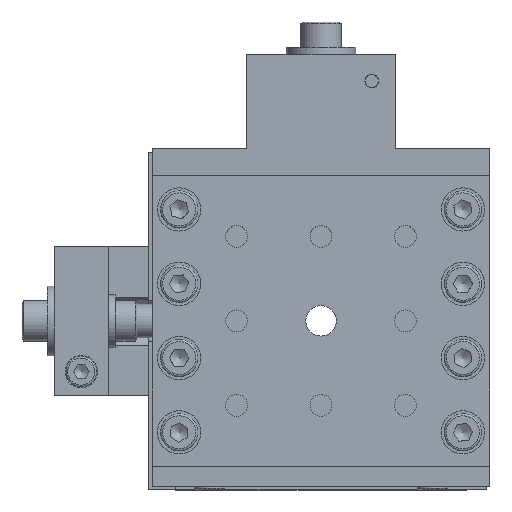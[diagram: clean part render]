
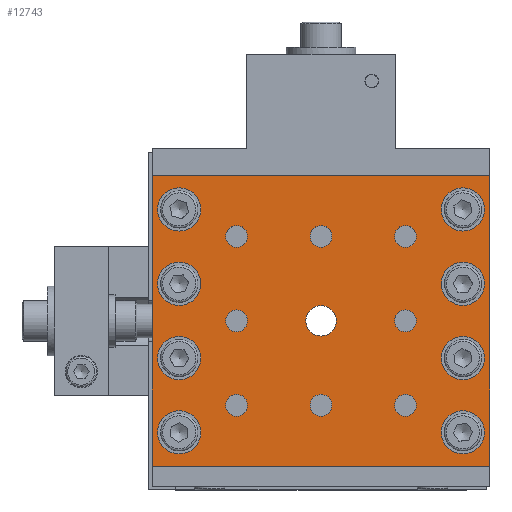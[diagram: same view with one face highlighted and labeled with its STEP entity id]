
A CAD part, top view. The second image highlights one B-rep face of the part: STEP entity #12743.
In plain terms, the highlighted planar face has unit normal (0, 0, 1).
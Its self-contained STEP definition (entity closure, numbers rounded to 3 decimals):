
#11070=CARTESIAN_POINT('',(52.298,-13.453,-4.757));
#11071=VERTEX_POINT('',#11070);
#11078=CARTESIAN_POINT('',(2.298,-13.453,-4.757));
#11079=VERTEX_POINT('',#11078);
#11080=CARTESIAN_POINT('',(52.298,-13.453,-4.757));
#11081=DIRECTION('',(-1.0,0.0,0.0));
#11082=VECTOR('',#11081,50.);
#11083=LINE('',#11080,#11082);
#11084=EDGE_CURVE('',#11071,#11079,#11083,.T.);
#11821=CARTESIAN_POINT('',(2.298,29.547,-4.757));
#11822=VERTEX_POINT('',#11821);
#11829=CARTESIAN_POINT('',(52.298,29.547,-4.757));
#11830=VERTEX_POINT('',#11829);
#11831=CARTESIAN_POINT('',(2.298,29.547,-4.757));
#11832=DIRECTION('',(1.0,0.0,0.0));
#11833=VECTOR('',#11832,50.);
#11834=LINE('',#11831,#11833);
#11835=EDGE_CURVE('',#11822,#11830,#11834,.T.);
#11899=CARTESIAN_POINT('',(29.548,8.047,-4.757));
#11900=VERTEX_POINT('',#11899);
#11901=CARTESIAN_POINT('',(27.298,8.047,-4.757));
#11902=DIRECTION('',(0.0,0.0,-1.0));
#11903=DIRECTION('',(-1.0,0.0,0.0));
#11904=AXIS2_PLACEMENT_3D('',#11901,#11902,#11903);
#11905=CIRCLE('',#11904,2.25);
#11906=EDGE_CURVE('',#11900,#11900,#11905,.T.);
#11930=CARTESIAN_POINT('',(28.919,20.547,-4.757));
#11931=VERTEX_POINT('',#11930);
#11932=CARTESIAN_POINT('',(27.298,20.547,-4.757));
#11933=DIRECTION('',(0.0,0.0,-1.0));
#11934=DIRECTION('',(1.0,0.0,0.0));
#11935=AXIS2_PLACEMENT_3D('',#11932,#11933,#11934);
#11936=CIRCLE('',#11935,1.621);
#11937=EDGE_CURVE('',#11931,#11931,#11936,.T.);
#11958=CARTESIAN_POINT('',(28.919,-4.453,-4.757));
#11959=VERTEX_POINT('',#11958);
#11960=CARTESIAN_POINT('',(27.298,-4.453,-4.757));
#11961=DIRECTION('',(0.0,0.0,-1.0));
#11962=DIRECTION('',(1.0,0.0,0.0));
#11963=AXIS2_PLACEMENT_3D('',#11960,#11961,#11962);
#11964=CIRCLE('',#11963,1.621);
#11965=EDGE_CURVE('',#11959,#11959,#11964,.T.);
#12166=CARTESIAN_POINT('',(51.498,13.547,-4.757));
#12167=VERTEX_POINT('',#12166);
#12168=CARTESIAN_POINT('',(48.298,13.547,-4.757));
#12169=DIRECTION('',(0.0,0.0,-1.0));
#12170=DIRECTION('',(1.0,0.0,0.0));
#12171=AXIS2_PLACEMENT_3D('',#12168,#12169,#12170);
#12172=CIRCLE('',#12171,3.2);
#12173=EDGE_CURVE('',#12167,#12167,#12172,.T.);
#12206=CARTESIAN_POINT('',(51.498,-8.453,-4.757));
#12207=VERTEX_POINT('',#12206);
#12208=CARTESIAN_POINT('',(48.298,-8.453,-4.757));
#12209=DIRECTION('',(0.0,0.0,-1.0));
#12210=DIRECTION('',(1.0,0.0,0.0));
#12211=AXIS2_PLACEMENT_3D('',#12208,#12209,#12210);
#12212=CIRCLE('',#12211,3.2);
#12213=EDGE_CURVE('',#12207,#12207,#12212,.T.);
#12246=CARTESIAN_POINT('',(9.498,13.547,-4.757));
#12247=VERTEX_POINT('',#12246);
#12248=CARTESIAN_POINT('',(6.298,13.547,-4.757));
#12249=DIRECTION('',(0.0,0.0,-1.0));
#12250=DIRECTION('',(1.0,0.0,0.0));
#12251=AXIS2_PLACEMENT_3D('',#12248,#12249,#12250);
#12252=CIRCLE('',#12251,3.2);
#12253=EDGE_CURVE('',#12247,#12247,#12252,.T.);
#12286=CARTESIAN_POINT('',(9.498,-8.453,-4.757));
#12287=VERTEX_POINT('',#12286);
#12288=CARTESIAN_POINT('',(6.298,-8.453,-4.757));
#12289=DIRECTION('',(0.0,0.0,-1.0));
#12290=DIRECTION('',(1.0,0.0,0.0));
#12291=AXIS2_PLACEMENT_3D('',#12288,#12289,#12290);
#12292=CIRCLE('',#12291,3.2);
#12293=EDGE_CURVE('',#12287,#12287,#12292,.T.);
#12334=CARTESIAN_POINT('',(9.498,2.547,-4.757));
#12335=VERTEX_POINT('',#12334);
#12336=CARTESIAN_POINT('',(6.298,2.547,-4.757));
#12337=DIRECTION('',(0.0,0.0,-1.0));
#12338=DIRECTION('',(1.0,0.0,0.0));
#12339=AXIS2_PLACEMENT_3D('',#12336,#12337,#12338);
#12340=CIRCLE('',#12339,3.2);
#12341=EDGE_CURVE('',#12335,#12335,#12340,.T.);
#12382=CARTESIAN_POINT('',(9.498,24.547,-4.757));
#12383=VERTEX_POINT('',#12382);
#12384=CARTESIAN_POINT('',(6.298,24.547,-4.757));
#12385=DIRECTION('',(0.0,0.0,-1.0));
#12386=DIRECTION('',(1.0,0.0,0.0));
#12387=AXIS2_PLACEMENT_3D('',#12384,#12385,#12386);
#12388=CIRCLE('',#12387,3.2);
#12389=EDGE_CURVE('',#12383,#12383,#12388,.T.);
#12430=CARTESIAN_POINT('',(51.498,2.547,-4.757));
#12431=VERTEX_POINT('',#12430);
#12432=CARTESIAN_POINT('',(48.298,2.547,-4.757));
#12433=DIRECTION('',(0.0,0.0,-1.0));
#12434=DIRECTION('',(1.0,0.0,0.0));
#12435=AXIS2_PLACEMENT_3D('',#12432,#12433,#12434);
#12436=CIRCLE('',#12435,3.2);
#12437=EDGE_CURVE('',#12431,#12431,#12436,.T.);
#12478=CARTESIAN_POINT('',(51.498,24.547,-4.757));
#12479=VERTEX_POINT('',#12478);
#12480=CARTESIAN_POINT('',(48.298,24.547,-4.757));
#12481=DIRECTION('',(0.0,0.0,-1.0));
#12482=DIRECTION('',(1.0,0.0,0.0));
#12483=AXIS2_PLACEMENT_3D('',#12480,#12481,#12482);
#12484=CIRCLE('',#12483,3.2);
#12485=EDGE_CURVE('',#12479,#12479,#12484,.T.);
#12501=CARTESIAN_POINT('',(41.419,8.047,-4.757));
#12502=VERTEX_POINT('',#12501);
#12503=CARTESIAN_POINT('',(39.798,8.047,-4.757));
#12504=DIRECTION('',(0.0,0.0,-1.0));
#12505=DIRECTION('',(1.0,0.0,0.0));
#12506=AXIS2_PLACEMENT_3D('',#12503,#12504,#12505);
#12507=CIRCLE('',#12506,1.621);
#12508=EDGE_CURVE('',#12502,#12502,#12507,.T.);
#12521=CARTESIAN_POINT('',(16.419,20.547,-4.757));
#12522=VERTEX_POINT('',#12521);
#12523=CARTESIAN_POINT('',(14.798,20.547,-4.757));
#12524=DIRECTION('',(0.0,0.0,-1.0));
#12525=DIRECTION('',(1.0,0.0,0.0));
#12526=AXIS2_PLACEMENT_3D('',#12523,#12524,#12525);
#12527=CIRCLE('',#12526,1.621);
#12528=EDGE_CURVE('',#12522,#12522,#12527,.T.);
#12541=CARTESIAN_POINT('',(16.419,-4.453,-4.757));
#12542=VERTEX_POINT('',#12541);
#12543=CARTESIAN_POINT('',(14.798,-4.453,-4.757));
#12544=DIRECTION('',(0.0,0.0,-1.0));
#12545=DIRECTION('',(1.0,0.0,0.0));
#12546=AXIS2_PLACEMENT_3D('',#12543,#12544,#12545);
#12547=CIRCLE('',#12546,1.621);
#12548=EDGE_CURVE('',#12542,#12542,#12547,.T.);
#12561=CARTESIAN_POINT('',(16.419,8.047,-4.757));
#12562=VERTEX_POINT('',#12561);
#12563=CARTESIAN_POINT('',(14.798,8.047,-4.757));
#12564=DIRECTION('',(0.0,0.0,-1.0));
#12565=DIRECTION('',(1.0,0.0,0.0));
#12566=AXIS2_PLACEMENT_3D('',#12563,#12564,#12565);
#12567=CIRCLE('',#12566,1.621);
#12568=EDGE_CURVE('',#12562,#12562,#12567,.T.);
#12581=CARTESIAN_POINT('',(41.419,-4.453,-4.757));
#12582=VERTEX_POINT('',#12581);
#12583=CARTESIAN_POINT('',(39.798,-4.453,-4.757));
#12584=DIRECTION('',(0.0,0.0,-1.0));
#12585=DIRECTION('',(1.0,0.0,0.0));
#12586=AXIS2_PLACEMENT_3D('',#12583,#12584,#12585);
#12587=CIRCLE('',#12586,1.621);
#12588=EDGE_CURVE('',#12582,#12582,#12587,.T.);
#12601=CARTESIAN_POINT('',(41.419,20.547,-4.757));
#12602=VERTEX_POINT('',#12601);
#12603=CARTESIAN_POINT('',(39.798,20.547,-4.757));
#12604=DIRECTION('',(0.0,0.0,-1.0));
#12605=DIRECTION('',(1.0,0.0,0.0));
#12606=AXIS2_PLACEMENT_3D('',#12603,#12604,#12605);
#12607=CIRCLE('',#12606,1.621);
#12608=EDGE_CURVE('',#12602,#12602,#12607,.T.);
#12618=CARTESIAN_POINT('',(2.298,-13.453,-4.757));
#12619=DIRECTION('',(0.0,1.0,0.0));
#12620=VECTOR('',#12619,43.0);
#12621=LINE('',#12618,#12620);
#12622=EDGE_CURVE('',#11079,#11822,#12621,.T.);
#12641=CARTESIAN_POINT('',(52.298,29.547,-4.757));
#12642=DIRECTION('',(0.0,-1.0,0.0));
#12643=VECTOR('',#12642,43.0);
#12644=LINE('',#12641,#12643);
#12645=EDGE_CURVE('',#11830,#11071,#12644,.T.);
#12681=CARTESIAN_POINT('',(27.298,8.047,-4.757));
#12682=DIRECTION('',(0.0,0.0,1.0));
#12683=DIRECTION('',(1.0,0.0,0.0));
#12684=AXIS2_PLACEMENT_3D('',#12681,#12682,#12683);
#12685=PLANE('',#12684);
#12686=ORIENTED_EDGE('',*,*,#12622,.F.);
#12687=ORIENTED_EDGE('',*,*,#11084,.F.);
#12688=ORIENTED_EDGE('',*,*,#12645,.F.);
#12689=ORIENTED_EDGE('',*,*,#11835,.F.);
#12690=EDGE_LOOP('',(#12686,#12687,#12688,#12689));
#12691=FACE_OUTER_BOUND('',#12690,.T.);
#12692=ORIENTED_EDGE('',*,*,#11906,.T.);
#12693=EDGE_LOOP('',(#12692));
#12694=FACE_BOUND('',#12693,.T.);
#12695=ORIENTED_EDGE('',*,*,#11937,.T.);
#12696=EDGE_LOOP('',(#12695));
#12697=FACE_BOUND('',#12696,.T.);
#12698=ORIENTED_EDGE('',*,*,#11965,.T.);
#12699=EDGE_LOOP('',(#12698));
#12700=FACE_BOUND('',#12699,.T.);
#12701=ORIENTED_EDGE('',*,*,#12173,.T.);
#12702=EDGE_LOOP('',(#12701));
#12703=FACE_BOUND('',#12702,.T.);
#12704=ORIENTED_EDGE('',*,*,#12213,.T.);
#12705=EDGE_LOOP('',(#12704));
#12706=FACE_BOUND('',#12705,.T.);
#12707=ORIENTED_EDGE('',*,*,#12253,.T.);
#12708=EDGE_LOOP('',(#12707));
#12709=FACE_BOUND('',#12708,.T.);
#12710=ORIENTED_EDGE('',*,*,#12293,.T.);
#12711=EDGE_LOOP('',(#12710));
#12712=FACE_BOUND('',#12711,.T.);
#12713=ORIENTED_EDGE('',*,*,#12341,.T.);
#12714=EDGE_LOOP('',(#12713));
#12715=FACE_BOUND('',#12714,.T.);
#12716=ORIENTED_EDGE('',*,*,#12389,.T.);
#12717=EDGE_LOOP('',(#12716));
#12718=FACE_BOUND('',#12717,.T.);
#12719=ORIENTED_EDGE('',*,*,#12437,.T.);
#12720=EDGE_LOOP('',(#12719));
#12721=FACE_BOUND('',#12720,.T.);
#12722=ORIENTED_EDGE('',*,*,#12485,.T.);
#12723=EDGE_LOOP('',(#12722));
#12724=FACE_BOUND('',#12723,.T.);
#12725=ORIENTED_EDGE('',*,*,#12508,.T.);
#12726=EDGE_LOOP('',(#12725));
#12727=FACE_BOUND('',#12726,.T.);
#12728=ORIENTED_EDGE('',*,*,#12528,.T.);
#12729=EDGE_LOOP('',(#12728));
#12730=FACE_BOUND('',#12729,.T.);
#12731=ORIENTED_EDGE('',*,*,#12548,.T.);
#12732=EDGE_LOOP('',(#12731));
#12733=FACE_BOUND('',#12732,.T.);
#12734=ORIENTED_EDGE('',*,*,#12568,.T.);
#12735=EDGE_LOOP('',(#12734));
#12736=FACE_BOUND('',#12735,.T.);
#12737=ORIENTED_EDGE('',*,*,#12588,.T.);
#12738=EDGE_LOOP('',(#12737));
#12739=FACE_BOUND('',#12738,.T.);
#12740=ORIENTED_EDGE('',*,*,#12608,.T.);
#12741=EDGE_LOOP('',(#12740));
#12742=FACE_BOUND('',#12741,.T.);
#12743=ADVANCED_FACE('',(#12691,#12694,#12697,#12700,#12703,#12706,#12709,#12712,#12715,#12718,#12721,#12724,#12727,#12730,#12733,#12736,#12739,#12742),#12685,.T.);
